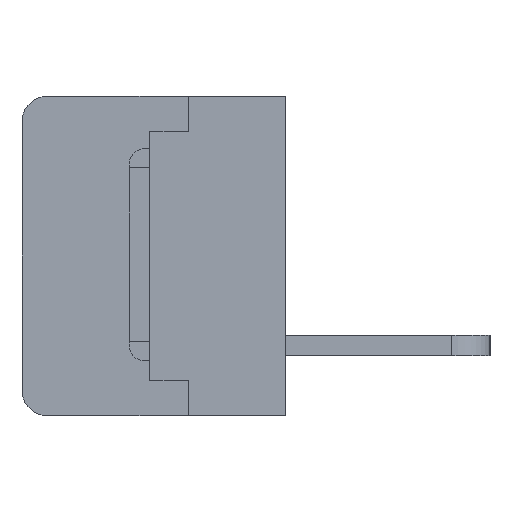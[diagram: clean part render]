
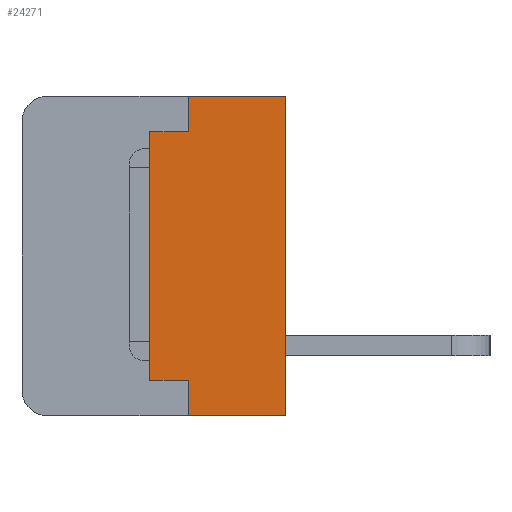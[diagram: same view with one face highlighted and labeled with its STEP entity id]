
A CAD part, left-side view. The second image highlights one B-rep face of the part: STEP entity #24271.
In plain terms, the highlighted planar face has unit normal (-1, 0, 0).
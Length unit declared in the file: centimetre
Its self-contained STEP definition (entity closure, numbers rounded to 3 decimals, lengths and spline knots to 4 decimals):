
#1455=PLANE('',#39956);
#2175=VECTOR('',#25592,1.);
#2274=VECTOR('',#25747,1.);
#2308=VECTOR('',#25784,1.);
#2341=VECTOR('',#25818,1.);
#3712=VECTOR('',#29064,1.);
#3713=VECTOR('',#29065,1.);
#3714=VECTOR('',#29066,1.);
#3715=VECTOR('',#29067,1.);
#4691=LINE('',#31729,#2175);
#4790=LINE('',#31956,#2274);
#4824=LINE('',#32026,#2308);
#4857=LINE('',#32091,#2341);
#6228=LINE('',#36931,#3712);
#6229=LINE('',#36933,#3713);
#6230=LINE('',#36934,#3714);
#6231=LINE('',#36936,#3715);
#7143=VERTEX_POINT('',#31728);
#7144=VERTEX_POINT('',#31730);
#7197=VERTEX_POINT('',#31880);
#7234=VERTEX_POINT('',#31955);
#7268=VERTEX_POINT('',#32025);
#7300=VERTEX_POINT('',#32092);
#8654=VERTEX_POINT('',#36932);
#8655=VERTEX_POINT('',#36935);
#10275=EDGE_CURVE('',#7143,#7144,#4691,.T.);
#10387=EDGE_CURVE('',#7234,#7197,#4790,.T.);
#10422=EDGE_CURVE('',#7197,#7268,#4824,.T.);
#10455=EDGE_CURVE('',#7268,#7300,#4857,.T.);
#12543=EDGE_CURVE('',#8654,#7234,#6228,.T.);
#12544=EDGE_CURVE('',#7144,#8654,#6229,.T.);
#12545=EDGE_CURVE('',#8655,#7143,#6230,.T.);
#12546=EDGE_CURVE('',#7300,#8655,#6231,.T.);
#19130=ORIENTED_EDGE('',*,*,#12543,.F.);
#19131=ORIENTED_EDGE('',*,*,#12544,.F.);
#19132=ORIENTED_EDGE('',*,*,#10275,.F.);
#19133=ORIENTED_EDGE('',*,*,#12545,.F.);
#19134=ORIENTED_EDGE('',*,*,#12546,.F.);
#19135=ORIENTED_EDGE('',*,*,#10455,.F.);
#19136=ORIENTED_EDGE('',*,*,#10422,.F.);
#19137=ORIENTED_EDGE('',*,*,#10387,.F.);
#21426=EDGE_LOOP('',(#19130,#19131,#19132,#19133,#19134,#19135,#19136,#19137));
#22926=FACE_BOUND('',#21426,.T.);
#24271=ADVANCED_FACE('',(#22926),#1455,.F.);
#25592=DIRECTION('',(0.,0.,1.));
#25747=DIRECTION('',(0.,-1.,0.));
#25784=DIRECTION('',(0.,0.,-1.));
#25818=DIRECTION('',(0.,1.,0.));
#29063=DIRECTION('',(1.,0.,0.));
#29064=DIRECTION('',(0.,0.,1.));
#29065=DIRECTION('',(0.,-1.,0.));
#29066=DIRECTION('',(0.,1.,0.));
#29067=DIRECTION('',(0.,0.,1.));
#31728=CARTESIAN_POINT('',(-1.382,0.53,-0.485));
#31729=CARTESIAN_POINT('',(-1.382,0.53,-0.485));
#31730=CARTESIAN_POINT('',(-1.382,0.53,0.485));
#31880=CARTESIAN_POINT('',(-1.382,0.,0.625));
#31955=CARTESIAN_POINT('',(-1.382,0.38,0.625));
#31956=CARTESIAN_POINT('',(-1.382,0.38,0.625));
#32025=CARTESIAN_POINT('',(-1.382,0.,-0.625));
#32026=CARTESIAN_POINT('',(-1.382,0.,0.625));
#32091=CARTESIAN_POINT('',(-1.382,0.,-0.625));
#32092=CARTESIAN_POINT('',(-1.382,0.38,-0.625));
#36930=CARTESIAN_POINT('',(-1.382,0.2532,0.));
#36931=CARTESIAN_POINT('',(-1.382,0.38,0.485));
#36932=CARTESIAN_POINT('',(-1.382,0.38,0.485));
#36933=CARTESIAN_POINT('',(-1.382,0.53,0.485));
#36934=CARTESIAN_POINT('',(-1.382,0.38,-0.485));
#36935=CARTESIAN_POINT('',(-1.382,0.38,-0.485));
#36936=CARTESIAN_POINT('',(-1.382,0.38,-0.625));
#39956=AXIS2_PLACEMENT_3D('',#36930,#29063,$);
